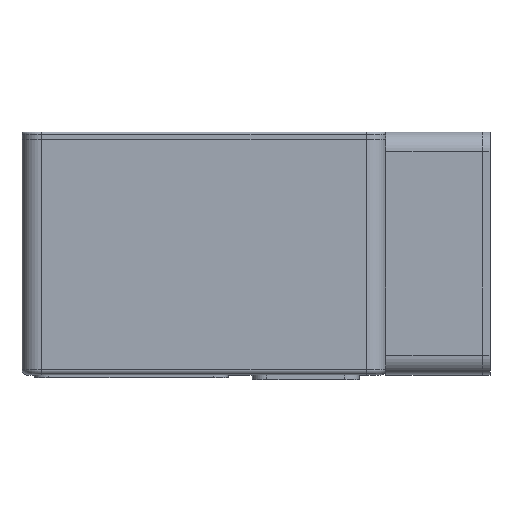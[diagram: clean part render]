
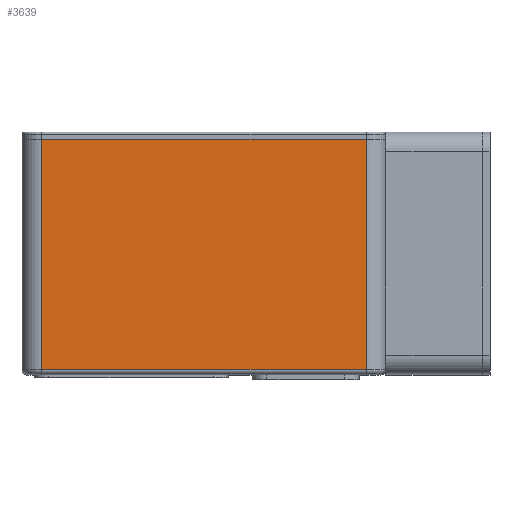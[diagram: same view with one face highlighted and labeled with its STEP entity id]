
A CAD part, top view. The second image highlights one B-rep face of the part: STEP entity #3639.
In plain terms, the highlighted planar face has unit normal (0, 0, 1).
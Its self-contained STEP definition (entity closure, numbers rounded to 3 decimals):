
#114 = PLANE('',#115);
#115 = AXIS2_PLACEMENT_3D('',#116,#117,#118);
#116 = CARTESIAN_POINT('',(-75.,97.,0.));
#117 = DIRECTION('',(0.,1.,0.));
#118 = DIRECTION('',(0.,0.,1.));
#142 = CYLINDRICAL_SURFACE('',#143,8.);
#143 = AXIS2_PLACEMENT_3D('',#144,#145,#146);
#144 = CARTESIAN_POINT('',(-67.,0.,92.));
#145 = DIRECTION('',(0.,1.,0.));
#146 = DIRECTION('',(-1.,0.,0.));
#693 = VERTEX_POINT('',#694);
#694 = CARTESIAN_POINT('',(-67.,97.,100.));
#716 = EDGE_CURVE('',#693,#717,#719,.T.);
#717 = VERTEX_POINT('',#718);
#718 = CARTESIAN_POINT('',(67.,97.,100.));
#719 = SURFACE_CURVE('',#720,(#724,#731),.PCURVE_S1.);
#720 = LINE('',#721,#722);
#721 = CARTESIAN_POINT('',(-75.,97.,100.));
#722 = VECTOR('',#723,1.);
#723 = DIRECTION('',(1.,0.,0.));
#724 = PCURVE('',#114,#725);
#725 = DEFINITIONAL_REPRESENTATION('',(#726),#730);
#726 = LINE('',#727,#728);
#727 = CARTESIAN_POINT('',(100.,0.));
#728 = VECTOR('',#729,1.);
#729 = DIRECTION('',(0.,1.));
#730 = ( GEOMETRIC_REPRESENTATION_CONTEXT(2) 
PARAMETRIC_REPRESENTATION_CONTEXT() REPRESENTATION_CONTEXT('2D SPACE',''
  ) );
#731 = PCURVE('',#732,#737);
#732 = PLANE('',#733);
#733 = AXIS2_PLACEMENT_3D('',#734,#735,#736);
#734 = CARTESIAN_POINT('',(-75.,0.,100.));
#735 = DIRECTION('',(0.,0.,1.));
#736 = DIRECTION('',(1.,0.,0.));
#737 = DEFINITIONAL_REPRESENTATION('',(#738),#742);
#738 = LINE('',#739,#740);
#739 = CARTESIAN_POINT('',(0.,97.));
#740 = VECTOR('',#741,1.);
#741 = DIRECTION('',(1.,0.));
#742 = ( GEOMETRIC_REPRESENTATION_CONTEXT(2) 
PARAMETRIC_REPRESENTATION_CONTEXT() REPRESENTATION_CONTEXT('2D SPACE',''
  ) );
#765 = CYLINDRICAL_SURFACE('',#766,8.);
#766 = AXIS2_PLACEMENT_3D('',#767,#768,#769);
#767 = CARTESIAN_POINT('',(67.,0.,92.));
#768 = DIRECTION('',(0.,1.,0.));
#769 = DIRECTION('',(1.,0.,-0.));
#1415 = VERTEX_POINT('',#1416);
#1416 = CARTESIAN_POINT('',(-67.,2.,100.));
#1438 = EDGE_CURVE('',#1415,#693,#1439,.T.);
#1439 = SURFACE_CURVE('',#1440,(#1444,#1451),.PCURVE_S1.);
#1440 = LINE('',#1441,#1442);
#1441 = CARTESIAN_POINT('',(-67.,0.,100.));
#1442 = VECTOR('',#1443,1.);
#1443 = DIRECTION('',(0.,1.,0.));
#1444 = PCURVE('',#142,#1445);
#1445 = DEFINITIONAL_REPRESENTATION('',(#1446),#1450);
#1446 = LINE('',#1447,#1448);
#1447 = CARTESIAN_POINT('',(1.571,0.));
#1448 = VECTOR('',#1449,1.);
#1449 = DIRECTION('',(0.,1.));
#1450 = ( GEOMETRIC_REPRESENTATION_CONTEXT(2) 
PARAMETRIC_REPRESENTATION_CONTEXT() REPRESENTATION_CONTEXT('2D SPACE',''
  ) );
#1451 = PCURVE('',#732,#1452);
#1452 = DEFINITIONAL_REPRESENTATION('',(#1453),#1457);
#1453 = LINE('',#1454,#1455);
#1454 = CARTESIAN_POINT('',(8.,0.));
#1455 = VECTOR('',#1456,1.);
#1456 = DIRECTION('',(0.,1.));
#1457 = ( GEOMETRIC_REPRESENTATION_CONTEXT(2) 
PARAMETRIC_REPRESENTATION_CONTEXT() REPRESENTATION_CONTEXT('2D SPACE',''
  ) );
#2150 = CYLINDRICAL_SURFACE('',#2151,2.);
#2151 = AXIS2_PLACEMENT_3D('',#2152,#2153,#2154);
#2152 = CARTESIAN_POINT('',(67.,2.,98.));
#2153 = DIRECTION('',(-1.,-0.,-0.));
#2154 = DIRECTION('',(0.,-1.,0.));
#3595 = VERTEX_POINT('',#3596);
#3596 = CARTESIAN_POINT('',(67.,2.,100.));
#3618 = EDGE_CURVE('',#3595,#717,#3619,.T.);
#3619 = SURFACE_CURVE('',#3620,(#3624,#3631),.PCURVE_S1.);
#3620 = LINE('',#3621,#3622);
#3621 = CARTESIAN_POINT('',(67.,0.,100.));
#3622 = VECTOR('',#3623,1.);
#3623 = DIRECTION('',(0.,1.,0.));
#3624 = PCURVE('',#765,#3625);
#3625 = DEFINITIONAL_REPRESENTATION('',(#3626),#3630);
#3626 = LINE('',#3627,#3628);
#3627 = CARTESIAN_POINT('',(-1.571,0.));
#3628 = VECTOR('',#3629,1.);
#3629 = DIRECTION('',(-0.,1.));
#3630 = ( GEOMETRIC_REPRESENTATION_CONTEXT(2) 
PARAMETRIC_REPRESENTATION_CONTEXT() REPRESENTATION_CONTEXT('2D SPACE',''
  ) );
#3631 = PCURVE('',#732,#3632);
#3632 = DEFINITIONAL_REPRESENTATION('',(#3633),#3637);
#3633 = LINE('',#3634,#3635);
#3634 = CARTESIAN_POINT('',(142.,0.));
#3635 = VECTOR('',#3636,1.);
#3636 = DIRECTION('',(0.,1.));
#3637 = ( GEOMETRIC_REPRESENTATION_CONTEXT(2) 
PARAMETRIC_REPRESENTATION_CONTEXT() REPRESENTATION_CONTEXT('2D SPACE',''
  ) );
#3639 = ADVANCED_FACE('',(#3640),#732,.T.);
#3640 = FACE_BOUND('',#3641,.T.);
#3641 = EDGE_LOOP('',(#3642,#3643,#3664,#3665));
#3642 = ORIENTED_EDGE('',*,*,#1438,.F.);
#3643 = ORIENTED_EDGE('',*,*,#3644,.F.);
#3644 = EDGE_CURVE('',#3595,#1415,#3645,.T.);
#3645 = SURFACE_CURVE('',#3646,(#3650,#3657),.PCURVE_S1.);
#3646 = LINE('',#3647,#3648);
#3647 = CARTESIAN_POINT('',(67.,2.,100.));
#3648 = VECTOR('',#3649,1.);
#3649 = DIRECTION('',(-1.,-0.,-0.));
#3650 = PCURVE('',#732,#3651);
#3651 = DEFINITIONAL_REPRESENTATION('',(#3652),#3656);
#3652 = LINE('',#3653,#3654);
#3653 = CARTESIAN_POINT('',(142.,2.));
#3654 = VECTOR('',#3655,1.);
#3655 = DIRECTION('',(-1.,-0.));
#3656 = ( GEOMETRIC_REPRESENTATION_CONTEXT(2) 
PARAMETRIC_REPRESENTATION_CONTEXT() REPRESENTATION_CONTEXT('2D SPACE',''
  ) );
#3657 = PCURVE('',#2150,#3658);
#3658 = DEFINITIONAL_REPRESENTATION('',(#3659),#3663);
#3659 = LINE('',#3660,#3661);
#3660 = CARTESIAN_POINT('',(1.571,0.));
#3661 = VECTOR('',#3662,1.);
#3662 = DIRECTION('',(0.,1.));
#3663 = ( GEOMETRIC_REPRESENTATION_CONTEXT(2) 
PARAMETRIC_REPRESENTATION_CONTEXT() REPRESENTATION_CONTEXT('2D SPACE',''
  ) );
#3664 = ORIENTED_EDGE('',*,*,#3618,.T.);
#3665 = ORIENTED_EDGE('',*,*,#716,.F.);
